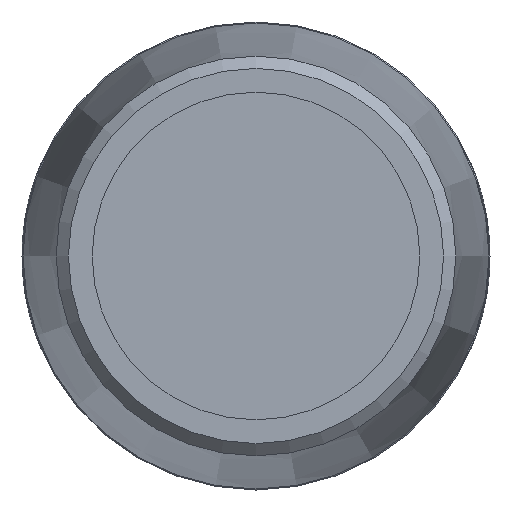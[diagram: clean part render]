
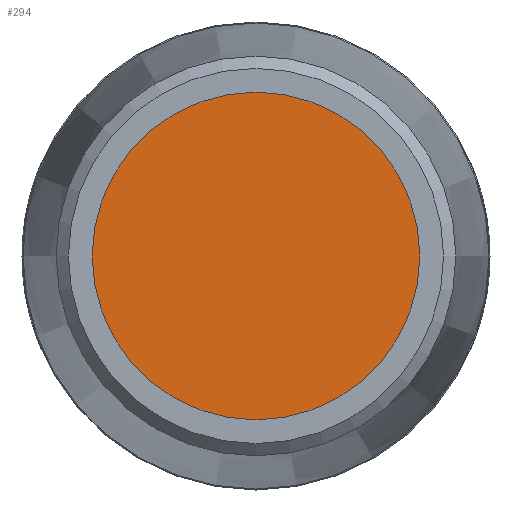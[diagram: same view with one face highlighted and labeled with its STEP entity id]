
A CAD part, left-side view. The second image highlights one B-rep face of the part: STEP entity #294.
In plain terms, the highlighted planar face has unit normal (-1, 0, 0).
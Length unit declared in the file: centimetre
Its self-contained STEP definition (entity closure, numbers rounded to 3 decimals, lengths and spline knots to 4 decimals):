
#48=PLANE('',#329);
#77=FACE_OUTER_BOUND('',#108,.T.);
#108=EDGE_LOOP('',(#214));
#134=CIRCLE('',#328,0.42);
#148=VERTEX_POINT('',#455);
#174=EDGE_CURVE('',#148,#148,#134,.T.);
#214=ORIENTED_EDGE('',*,*,#174,.T.);
#294=ADVANCED_FACE('',(#77),#48,.T.);
#328=AXIS2_PLACEMENT_3D('',#456,#387,#388);
#329=AXIS2_PLACEMENT_3D('',#457,#389,#390);
#387=DIRECTION('center_axis',(-1.,0.,0.));
#388=DIRECTION('ref_axis',(0.,0.,1.));
#389=DIRECTION('center_axis',(-1.,0.,0.));
#390=DIRECTION('ref_axis',(0.,0.,1.));
#455=CARTESIAN_POINT('',(-3.2,-0.42,0.));
#456=CARTESIAN_POINT('Origin',(-3.2,0.,0.));
#457=CARTESIAN_POINT('Origin',(-3.2,0.,0.));
